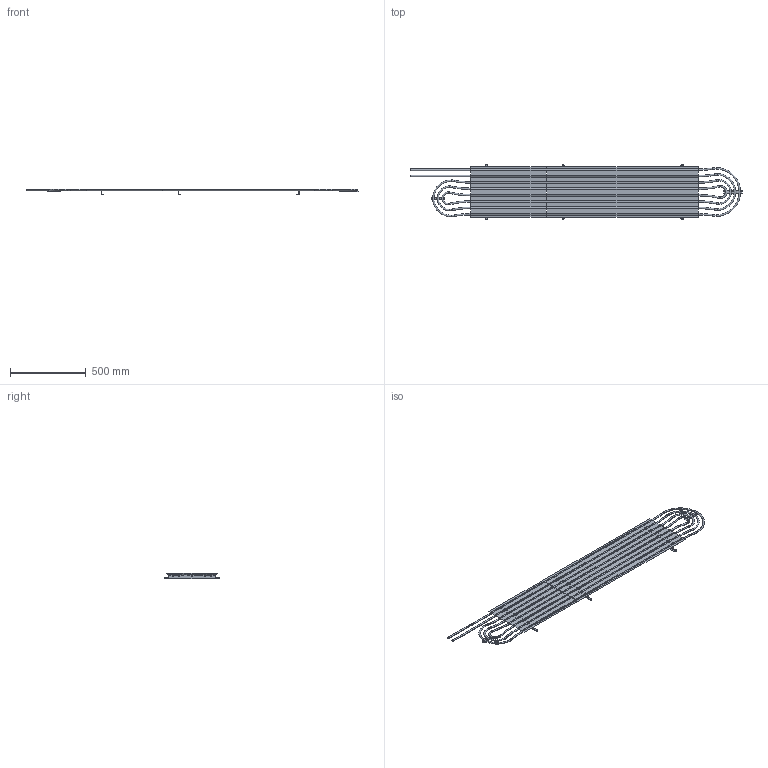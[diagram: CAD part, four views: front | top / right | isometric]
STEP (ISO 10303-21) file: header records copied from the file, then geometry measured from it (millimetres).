
FILE_DESCRIPTION (( 'STEP AP214' ), '1' );
FILE_NAME ('AP 150.STEP', '2021-04-13T07:19:42', ( '' ), ( '' ), 'SwSTEP 2.0', 'SolidWorks 2019', '' );
FILE_SCHEMA (( 'AUTOMOTIVE_DESIGN' ));
Length unit declared in the file: millimetre
Products named in the file (13): G54R2_ref_lemez_hf_p_4valyu_500mm__2qqq_334x1500; cs饘esb嫕at_1,5; P003 - Termék; AP 150; G54R2_ref_lemez_hf_p_4valyu_500mm__2qqq; cs饘esb嫕at; Fésû; P003 - Termék_Felhajtott; F駸獷3; F駸獷4
Assembly tree (7 placements, depth 2):
  P003 - Termék
  AP 150
    G54R2_ref_lemez_hf_p_4valyu_500mm__2qqq_334x1500
    cs饘esb嫕at_1,5
    P003 - Termék_Felhajtott  x3
    F駸獷4
    F駸獷3
  P003 - Termék
  P003 - Termék
  G54R2_ref_lemez_hf_p_4valyu_500mm__2qqq
Bounding box: 2195 x 362 x 37.5 mm (x, y, z)
Volume: 644053.6 mm3; surface area: 2538646 mm2
Topology: 8 solids, 8 shells, 1078 faces, 2866 edges, 1804 vertices
Faces by surface type: cylinder 497, plane 411, torus 140, bspline 30
Entity records: 22008 total; most frequent: CARTESIAN_POINT 4513, DIRECTION 3898, ORIENTED_EDGE 3524, EDGE_CURVE 1762, AXIS2_PLACEMENT_3D 1501, VERTEX_POINT 1100, LINE 896, VECTOR 896
